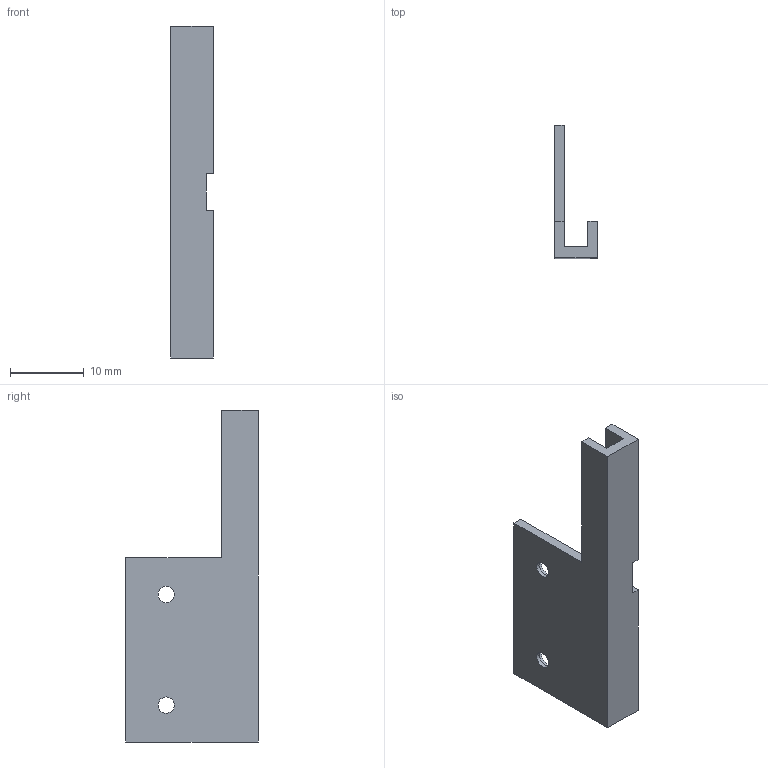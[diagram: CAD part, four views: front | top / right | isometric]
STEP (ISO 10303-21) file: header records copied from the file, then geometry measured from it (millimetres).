
FILE_DESCRIPTION (( 'STEP AP214' ), '1' );
FILE_NAME ('100341_Ver 0_Cable manager LL854514.STEP', '2025-02-19T09:53:40', ( '' ), ( '' ), 'SwSTEP 2.0', 'SolidWorks 2021', '' );
FILE_SCHEMA (( 'AUTOMOTIVE_DESIGN' ));
Length unit declared in the file: millimetre
Products named in the file (1): 100341_Ver 0_Cable manager LL854514
Bounding box: 5.8 x 18 x 45 mm (x, y, z)
Volume: 1177.8 mm3; surface area: 2020 mm2
Topology: 1 solids, 1 shells, 30 faces, 78 edges, 52 vertices
Faces by surface type: plane 18, cylinder 12
Entity records: 1020 total; most frequent: DIRECTION 164, CARTESIAN_POINT 161, ORIENTED_EDGE 156, EDGE_CURVE 78, AXIS2_PLACEMENT_3D 55, LINE 54, VECTOR 54, VERTEX_POINT 52
